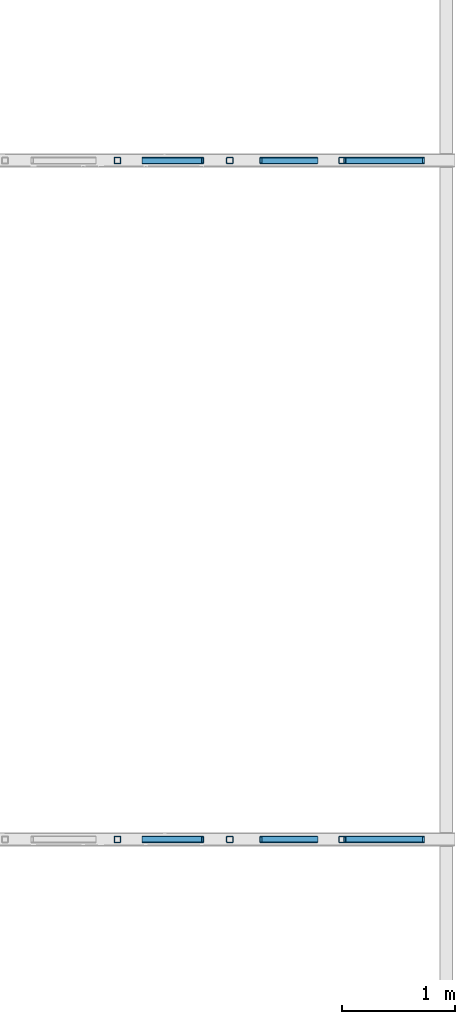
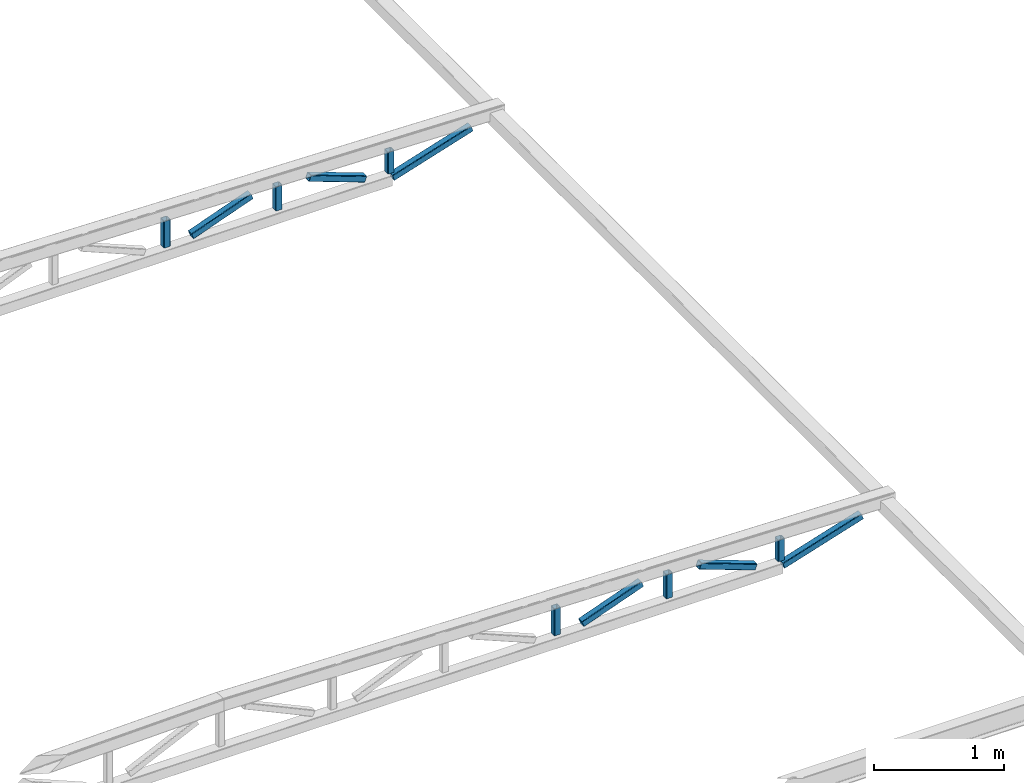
# One storey, part 10 of 12: 12 members, 2 elements without a shape of their own.
"""IFC2X3 building model written with IfcOpenShell, lengths in millimetres."""

from ifc_helpers import new_model, entity, si_unit, converted_unit, derived_unit, direction, frame, frame_2d, origin, place, context, subcontext, project, spatial, polyline, circle_curve, parameter, trimmed, segment, composite_curve, outline, extrude, source, transform, mapped, type_object, type_shapes, element, aggregate, save


model = new_model("IFC2X3")

# Units and contexts
model_context = context("Model", 3, precision=0.01, world=origin(), true_north=direction((6.12303176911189e-17, 1.0)))
body_context = subcontext(model_context, "Body", "Model", "MODEL_VIEW")
ifc_project = project(units=[si_unit("LENGTHUNIT", "METRE", prefix="MILLI"), si_unit("AREAUNIT", "SQUARE_METRE"), si_unit("VOLUMEUNIT", "CUBIC_METRE"), converted_unit("PLANEANGLEUNIT", "DEGREE", entity("IfcRatioMeasure", 0.0174532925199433), si_unit("PLANEANGLEUNIT", "RADIAN"), dimensions=[0, 0, 0, 0, 0, 0, 0]), si_unit("MASSUNIT", "GRAM", prefix="KILO"), derived_unit("MASSDENSITYUNIT", [(si_unit("MASSUNIT", "GRAM", prefix="KILO"), 1), (si_unit("LENGTHUNIT", "METRE"), -3)]), si_unit("TIMEUNIT", "SECOND"), si_unit("FREQUENCYUNIT", "HERTZ"), si_unit("THERMODYNAMICTEMPERATUREUNIT", "DEGREE_CELSIUS"), derived_unit("THERMALTRANSMITTANCEUNIT", [(si_unit("MASSUNIT", "GRAM", prefix="KILO"), 1), (si_unit("THERMODYNAMICTEMPERATUREUNIT", "KELVIN"), -1), (si_unit("TIMEUNIT", "SECOND"), -3)]), derived_unit("VOLUMETRICFLOWRATEUNIT", [(si_unit("LENGTHUNIT", "METRE"), 3), (si_unit("TIMEUNIT", "SECOND"), -1)]), si_unit("ELECTRICCURRENTUNIT", "AMPERE"), si_unit("ELECTRICVOLTAGEUNIT", "VOLT"), si_unit("POWERUNIT", "WATT"), si_unit("FORCEUNIT", "NEWTON", prefix="KILO"), si_unit("ILLUMINANCEUNIT", "LUX"), si_unit("LUMINOUSFLUXUNIT", "LUMEN"), si_unit("LUMINOUSINTENSITYUNIT", "CANDELA"), derived_unit("USERDEFINED", [(si_unit("MASSUNIT", "GRAM", prefix="KILO"), -1), (si_unit("LENGTHUNIT", "METRE"), -2), (si_unit("TIMEUNIT", "SECOND"), 3), (si_unit("LUMINOUSFLUXUNIT", "LUMEN"), 1)]), derived_unit("LINEARVELOCITYUNIT", [(si_unit("LENGTHUNIT", "METRE"), 1), (si_unit("TIMEUNIT", "SECOND"), -1)]), si_unit("PRESSUREUNIT", "PASCAL"), derived_unit("USERDEFINED", [(si_unit("LENGTHUNIT", "METRE"), -2), (si_unit("MASSUNIT", "GRAM", prefix="KILO"), 1), (si_unit("TIMEUNIT", "SECOND"), -2)])], contexts=[model_context])

# Site, building, storey
site_placement = place(None, frame((0.0, 0.0, 101000.0)))
site = spatial("IfcSite", under=ifc_project, at=site_placement, Name="Default", CompositionType="ELEMENT")
building_placement = place(site_placement, origin())
building = spatial("IfcBuilding", under=site, at=building_placement, CompositionType="ELEMENT")
storey_placement = place(building_placement, frame((0.0, 0.0, 6025.0)))
storey = spatial("IfcBuildingStorey", under=building, at=storey_placement, Name="03", CompositionType="ELEMENT", Elevation=6024.9999999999)

# Assembly, member
assembly_1_placement = place(storey_placement, origin())
assembly_1 = element("IfcElementAssembly", 1, at=assembly_1_placement, inside=storey, Name="Gitterdrager:Standard", ObjectType="Gitterdrager:Standard", AssemblyPlace="NOTDEFINED", PredefinedType="TRUSS")
member_type_1 = type_object("IfcMemberType", Name="60x60x5", PredefinedType="BRACE")
shared_shape_1 = source(origin(), body_context, "Body", "SweptSolid", [
    extrude(outline(composite_curve([segment(trimmed(circle_curve(frame_2d((-20.0, -20.0), x_axis=(1.0, 0.0)), 10.0), [parameter(180.0)], [parameter(270.0)], True, "PARAMETER"), True, "CONTINUOUS"), segment(polyline([(-20.0, -30.0), (20.0, -30.0)]), True, "CONTINUOUS"), segment(trimmed(circle_curve(frame_2d((20.0, -20.0), x_axis=(1.0, 0.0)), 10.0), [parameter(270.0)], [parameter(5.08888749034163e-14)], True, "PARAMETER"), True, "CONTINUOUS"), segment(polyline([(30.0, -20.0), (30.0, 20.0)]), True, "CONTINUOUS"), segment(trimmed(circle_curve(frame_2d((20.0, 20.0), x_axis=(1.0, 0.0)), 10.0), [parameter(360.0)], [parameter(89.9999999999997)], True, "PARAMETER"), True, "CONTINUOUS"), segment(polyline([(20.0, 30.0), (-20.0, 30.0)]), True, "CONTINUOUS"), segment(trimmed(circle_curve(frame_2d((-20.0, 20.0), x_axis=(1.0, 0.0)), 10.0), [parameter(90.0000000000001)], [parameter(180.0)], True, "PARAMETER"), True, "CONTINUOUS"), segment(polyline([(-30.0, 20.0), (-30.0, -20.0)]), True, "CONTINUOUS")], self_intersect=False), holes=[composite_curve([segment(polyline([(20.0, -25.0), (-20.0, -25.0)]), True, "CONTINUOUS"), segment(trimmed(circle_curve(frame_2d((-20.0, -20.0), x_axis=(1.0, 0.0)), 5.0), [parameter(180.0)], [parameter(270.0)], True, "PARAMETER"), False, "CONTINUOUS"), segment(polyline([(-25.0, -20.0), (-25.0, 20.0)]), True, "CONTINUOUS"), segment(trimmed(circle_curve(frame_2d((-20.0, 20.0), x_axis=(1.0, 0.0)), 5.0), [parameter(90.0000000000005)], [parameter(180.0)], True, "PARAMETER"), False, "CONTINUOUS"), segment(polyline([(-20.0, 25.0), (20.0, 25.0)]), True, "CONTINUOUS"), segment(trimmed(circle_curve(frame_2d((20.0, 20.0), x_axis=(1.0, 0.0)), 5.0), [parameter(0.0)], [parameter(90.0000000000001)], True, "PARAMETER"), False, "CONTINUOUS"), segment(polyline([(25.0, 20.0), (25.0, -20.0)]), True, "CONTINUOUS"), segment(trimmed(circle_curve(frame_2d((20.0, -20.0), x_axis=(1.0, 0.0)), 5.0), [parameter(270.0)], [parameter(4.57999874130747e-13)], True, "PARAMETER"), False, "CONTINUOUS")], self_intersect=False)]), frame((-130.995453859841, 0.0, 0.0), z_axis=(1.0, 0.0, 0.0), x_axis=(0.0, -1.0, 0.0)), (0.0, 0.0, 1.0), 250.455480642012),
])
type_shapes(member_type_1, [shared_shape_1])
member_1_placement = place(assembly_1_placement, frame((20206.2644969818, 26417.9507529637, -147.328300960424), z_axis=(1.0, 0.0, 0.0), x_axis=(0.0, 0.0, 1.0)))
member_1 = element("IfcMember", 2, at=member_1_placement, type_object=member_type_1, Name="Bjelke HUP:60x60x5", ObjectType="60x60x5", context=body_context, shape_type="MappedRepresentation", body=[
    mapped(shared_shape_1, transform((0.0, 0.0, 0.0), scale=1.0)),
])

assembly_2_placement = place(storey_placement, origin())
assembly_2 = element("IfcElementAssembly", 3, at=assembly_2_placement, inside=storey, Name="Gitterdrager:Standard", ObjectType="Gitterdrager:Standard", AssemblyPlace="NOTDEFINED", PredefinedType="TRUSS")
member_2_placement = place(assembly_2_placement, frame((20206.2644969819, 32417.9507529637, -147.328300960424), z_axis=(1.0, 0.0, 0.0), x_axis=(0.0, 0.0, 1.0)))
member_2 = element("IfcMember", 4, at=member_2_placement, type_object=member_type_1, Name="Bjelke HUP:60x60x5", ObjectType="60x60x5", context=body_context, shape_type="MappedRepresentation", body=[
    mapped(shared_shape_1, transform((0.0, 0.0, 0.0), scale=1.0)),
])

# Member
member_type_2 = type_object("IfcMemberType", Name="60x60x5", PredefinedType="BRACE")
shared_shape_2 = source(origin(), body_context, "Body", "SweptSolid", [
    extrude(outline(composite_curve([segment(trimmed(circle_curve(frame_2d((-20.0, -20.0), x_axis=(1.0, 0.0)), 10.0), [parameter(180.0)], [parameter(270.0)], True, "PARAMETER"), True, "CONTINUOUS"), segment(polyline([(-20.0, -30.0), (20.0, -30.0)]), True, "CONTINUOUS"), segment(trimmed(circle_curve(frame_2d((20.0, -20.0), x_axis=(1.0, 0.0)), 10.0), [parameter(270.0)], [parameter(5.08888749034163e-14)], True, "PARAMETER"), True, "CONTINUOUS"), segment(polyline([(30.0, -20.0), (30.0, 20.0)]), True, "CONTINUOUS"), segment(trimmed(circle_curve(frame_2d((20.0, 20.0), x_axis=(1.0, 0.0)), 10.0), [parameter(360.0)], [parameter(89.9999999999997)], True, "PARAMETER"), True, "CONTINUOUS"), segment(polyline([(20.0, 30.0), (-20.0, 30.0)]), True, "CONTINUOUS"), segment(trimmed(circle_curve(frame_2d((-20.0, 20.0), x_axis=(1.0, 0.0)), 10.0), [parameter(90.0000000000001)], [parameter(180.0)], True, "PARAMETER"), True, "CONTINUOUS"), segment(polyline([(-30.0, 20.0), (-30.0, -20.0)]), True, "CONTINUOUS")], self_intersect=False), holes=[composite_curve([segment(polyline([(20.0, -25.0), (-20.0, -25.0)]), True, "CONTINUOUS"), segment(trimmed(circle_curve(frame_2d((-20.0, -20.0), x_axis=(1.0, 0.0)), 5.0), [parameter(180.0)], [parameter(270.0)], True, "PARAMETER"), False, "CONTINUOUS"), segment(polyline([(-25.0, -20.0), (-25.0, 20.0)]), True, "CONTINUOUS"), segment(trimmed(circle_curve(frame_2d((-20.0, 20.0), x_axis=(1.0, 0.0)), 5.0), [parameter(90.0000000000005)], [parameter(180.0)], True, "PARAMETER"), False, "CONTINUOUS"), segment(polyline([(-20.0, 25.0), (20.0, 25.0)]), True, "CONTINUOUS"), segment(trimmed(circle_curve(frame_2d((20.0, 20.0), x_axis=(1.0, 0.0)), 5.0), [parameter(0.0)], [parameter(90.0000000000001)], True, "PARAMETER"), False, "CONTINUOUS"), segment(polyline([(25.0, 20.0), (25.0, -20.0)]), True, "CONTINUOUS"), segment(trimmed(circle_curve(frame_2d((20.0, -20.0), x_axis=(1.0, 0.0)), 5.0), [parameter(270.0)], [parameter(4.57999874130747e-13)], True, "PARAMETER"), False, "CONTINUOUS")], self_intersect=False)]), frame((-118.596969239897, 0.0, 0.0), z_axis=(1.0, 0.0, 0.0), x_axis=(0.0, -1.0, 0.0)), (0.0, 0.0, 1.0), 225.658511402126),
])
type_shapes(member_type_2, [shared_shape_2])
member_3_placement = place(assembly_1_placement, frame((21199.5978303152, 26417.9507529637, -159.726785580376), z_axis=(1.0, 0.0, 0.0), x_axis=(0.0, 0.0, 1.0)))
member_3 = element("IfcMember", 5, at=member_3_placement, type_object=member_type_2, Name="Bjelke HUP:60x60x5", ObjectType="60x60x5", context=body_context, shape_type="MappedRepresentation", body=[
    mapped(shared_shape_2, transform((0.0, 0.0, 0.0), scale=1.0)),
])

member_4_placement = place(assembly_2_placement, frame((21199.5978303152, 32417.9507529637, -159.726785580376), z_axis=(1.0, 0.0, 0.0), x_axis=(0.0, 0.0, 1.0)))
member_4 = element("IfcMember", 6, at=member_4_placement, type_object=member_type_2, Name="Bjelke HUP:60x60x5", ObjectType="60x60x5", context=body_context, shape_type="MappedRepresentation", body=[
    mapped(shared_shape_2, transform((0.0, 0.0, 0.0), scale=1.0)),
])

member_type_3 = type_object("IfcMemberType", Name="60x60x5", PredefinedType="BRACE")
shared_shape_3 = source(origin(), body_context, "Body", "SweptSolid", [
    extrude(outline(composite_curve([segment(trimmed(circle_curve(frame_2d((-20.0, -20.0), x_axis=(1.0, 0.0)), 10.0), [parameter(180.0)], [parameter(270.0)], True, "PARAMETER"), True, "CONTINUOUS"), segment(polyline([(-20.0, -30.0), (20.0, -30.0)]), True, "CONTINUOUS"), segment(trimmed(circle_curve(frame_2d((20.0, -20.0), x_axis=(1.0, 0.0)), 10.0), [parameter(270.0)], [parameter(5.08888749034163e-14)], True, "PARAMETER"), True, "CONTINUOUS"), segment(polyline([(30.0, -20.0), (30.0, 20.0)]), True, "CONTINUOUS"), segment(trimmed(circle_curve(frame_2d((20.0, 20.0), x_axis=(1.0, 0.0)), 10.0), [parameter(360.0)], [parameter(89.9999999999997)], True, "PARAMETER"), True, "CONTINUOUS"), segment(polyline([(20.0, 30.0), (-20.0, 30.0)]), True, "CONTINUOUS"), segment(trimmed(circle_curve(frame_2d((-20.0, 20.0), x_axis=(1.0, 0.0)), 10.0), [parameter(90.0000000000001)], [parameter(180.0)], True, "PARAMETER"), True, "CONTINUOUS"), segment(polyline([(-30.0, 20.0), (-30.0, -20.0)]), True, "CONTINUOUS")], self_intersect=False), holes=[composite_curve([segment(polyline([(20.0, -25.0), (-20.0, -25.0)]), True, "CONTINUOUS"), segment(trimmed(circle_curve(frame_2d((-20.0, -20.0), x_axis=(1.0, 0.0)), 5.0), [parameter(180.0)], [parameter(270.0)], True, "PARAMETER"), False, "CONTINUOUS"), segment(polyline([(-25.0, -20.0), (-25.0, 20.0)]), True, "CONTINUOUS"), segment(trimmed(circle_curve(frame_2d((-20.0, 20.0), x_axis=(1.0, 0.0)), 5.0), [parameter(90.0000000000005)], [parameter(180.0)], True, "PARAMETER"), False, "CONTINUOUS"), segment(polyline([(-20.0, 25.0), (20.0, 25.0)]), True, "CONTINUOUS"), segment(trimmed(circle_curve(frame_2d((20.0, 20.0), x_axis=(1.0, 0.0)), 5.0), [parameter(0.0)], [parameter(90.0000000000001)], True, "PARAMETER"), False, "CONTINUOUS"), segment(polyline([(25.0, 20.0), (25.0, -20.0)]), True, "CONTINUOUS"), segment(trimmed(circle_curve(frame_2d((20.0, -20.0), x_axis=(1.0, 0.0)), 5.0), [parameter(270.0)], [parameter(4.57999874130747e-13)], True, "PARAMETER"), False, "CONTINUOUS")], self_intersect=False)]), frame((-106.198484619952, 0.0, 0.0), z_axis=(1.0, 0.0, 0.0), x_axis=(0.0, -1.0, 0.0)), (0.0, 0.0, 1.0), 200.861542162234),
])
type_shapes(member_type_3, [shared_shape_3])
member_5_placement = place(assembly_1_placement, frame((22192.9311636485, 26417.9507529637, -172.125270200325), z_axis=(1.0, 0.0, 0.0), x_axis=(0.0, 0.0, 1.0)))
member_5 = element("IfcMember", 7, at=member_5_placement, type_object=member_type_3, Name="Bjelke HUP:60x60x5", ObjectType="60x60x5", context=body_context, shape_type="MappedRepresentation", body=[
    mapped(shared_shape_3, transform((0.0, 0.0, 0.0), scale=1.0)),
])

member_6_placement = place(assembly_2_placement, frame((22192.9311636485, 32417.9507529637, -172.125270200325), z_axis=(1.0, 0.0, 0.0), x_axis=(0.0, 0.0, 1.0)))
member_6 = element("IfcMember", 8, at=member_6_placement, type_object=member_type_3, Name="Bjelke HUP:60x60x5", ObjectType="60x60x5", context=body_context, shape_type="MappedRepresentation", body=[
    mapped(shared_shape_3, transform((0.0, 0.0, 0.0), scale=1.0)),
])

member_type_4 = type_object("IfcMemberType", Name="60x60x5", PredefinedType="BRACE")
shared_shape_4 = source(origin(), body_context, "Body", "SweptSolid", [
    extrude(outline(composite_curve([segment(trimmed(circle_curve(frame_2d((-20.0, -20.0), x_axis=(1.0, 0.0)), 10.0), [parameter(180.0)], [parameter(270.0)], True, "PARAMETER"), True, "CONTINUOUS"), segment(polyline([(-20.0, -30.0), (20.0, -30.0)]), True, "CONTINUOUS"), segment(trimmed(circle_curve(frame_2d((20.0, -20.0), x_axis=(1.0, 0.0)), 10.0), [parameter(270.0)], [parameter(5.08888749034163e-14)], True, "PARAMETER"), True, "CONTINUOUS"), segment(polyline([(30.0, -20.0), (30.0, 20.0)]), True, "CONTINUOUS"), segment(trimmed(circle_curve(frame_2d((20.0, 20.0), x_axis=(1.0, 0.0)), 10.0), [parameter(360.0)], [parameter(89.9999999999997)], True, "PARAMETER"), True, "CONTINUOUS"), segment(polyline([(20.0, 30.0), (-20.0, 30.0)]), True, "CONTINUOUS"), segment(trimmed(circle_curve(frame_2d((-20.0, 20.0), x_axis=(1.0, 0.0)), 10.0), [parameter(90.0000000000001)], [parameter(180.0)], True, "PARAMETER"), True, "CONTINUOUS"), segment(polyline([(-30.0, 20.0), (-30.0, -20.0)]), True, "CONTINUOUS")], self_intersect=False), holes=[composite_curve([segment(polyline([(20.0, -25.0), (-20.0, -25.0)]), True, "CONTINUOUS"), segment(trimmed(circle_curve(frame_2d((-20.0, -20.0), x_axis=(1.0, 0.0)), 5.0), [parameter(180.0)], [parameter(270.0)], True, "PARAMETER"), False, "CONTINUOUS"), segment(polyline([(-25.0, -20.0), (-25.0, 20.0)]), True, "CONTINUOUS"), segment(trimmed(circle_curve(frame_2d((-20.0, 20.0), x_axis=(1.0, 0.0)), 5.0), [parameter(90.0000000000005)], [parameter(180.0)], True, "PARAMETER"), False, "CONTINUOUS"), segment(polyline([(-20.0, 25.0), (20.0, 25.0)]), True, "CONTINUOUS"), segment(trimmed(circle_curve(frame_2d((20.0, 20.0), x_axis=(1.0, 0.0)), 5.0), [parameter(0.0)], [parameter(90.0000000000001)], True, "PARAMETER"), False, "CONTINUOUS"), segment(polyline([(25.0, 20.0), (25.0, -20.0)]), True, "CONTINUOUS"), segment(trimmed(circle_curve(frame_2d((20.0, -20.0), x_axis=(1.0, 0.0)), 5.0), [parameter(270.0)], [parameter(4.57999874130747e-13)], True, "PARAMETER"), False, "CONTINUOUS")], self_intersect=False)]), frame((-288.019442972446, 0.0, 0.0), z_axis=(1.0, 0.0, 0.0), x_axis=(0.0, -1.0, 0.0)), (0.0, 0.0, 1.0), 561.890828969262),
])
type_shapes(member_type_4, [shared_shape_4])
member_7_placement = place(assembly_1_placement, frame((20702.9311636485, 26417.9507529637, -159.726785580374), z_axis=(0.342896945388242, 0.0, -0.939373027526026), x_axis=(0.939373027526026, 0.0, 0.342896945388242)))
member_7 = element("IfcMember", 9, at=member_7_placement, type_object=member_type_4, Name="Bjelke HUP:60x60x5", ObjectType="60x60x5", context=body_context, shape_type="MappedRepresentation", body=[
    mapped(shared_shape_4, transform((0.0, 0.0, 0.0), scale=1.0)),
])

member_8_placement = place(assembly_2_placement, frame((20702.9311636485, 32417.9507529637, -159.726785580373), z_axis=(0.342896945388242, 0.0, -0.939373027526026), x_axis=(0.939373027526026, 0.0, 0.342896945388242)))
member_8 = element("IfcMember", 10, at=member_8_placement, type_object=member_type_4, Name="Bjelke HUP:60x60x5", ObjectType="60x60x5", context=body_context, shape_type="MappedRepresentation", body=[
    mapped(shared_shape_4, transform((0.0, 0.0, 0.0), scale=1.0)),
])

member_type_5 = type_object("IfcMemberType", Name="60x60x5", PredefinedType="BRACE")
shared_shape_5 = source(origin(), body_context, "Body", "SweptSolid", [
    extrude(outline(composite_curve([segment(trimmed(circle_curve(frame_2d((-20.0, -20.0), x_axis=(1.0, 0.0)), 10.0), [parameter(180.0)], [parameter(270.0)], True, "PARAMETER"), True, "CONTINUOUS"), segment(polyline([(-20.0, -30.0), (20.0, -30.0)]), True, "CONTINUOUS"), segment(trimmed(circle_curve(frame_2d((20.0, -20.0), x_axis=(1.0, 0.0)), 10.0), [parameter(270.0)], [parameter(5.08888749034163e-14)], True, "PARAMETER"), True, "CONTINUOUS"), segment(polyline([(30.0, -20.0), (30.0, 20.0)]), True, "CONTINUOUS"), segment(trimmed(circle_curve(frame_2d((20.0, 20.0), x_axis=(1.0, 0.0)), 10.0), [parameter(360.0)], [parameter(89.9999999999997)], True, "PARAMETER"), True, "CONTINUOUS"), segment(polyline([(20.0, 30.0), (-20.0, 30.0)]), True, "CONTINUOUS"), segment(trimmed(circle_curve(frame_2d((-20.0, 20.0), x_axis=(1.0, 0.0)), 10.0), [parameter(90.0000000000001)], [parameter(180.0)], True, "PARAMETER"), True, "CONTINUOUS"), segment(polyline([(-30.0, 20.0), (-30.0, -20.0)]), True, "CONTINUOUS")], self_intersect=False), holes=[composite_curve([segment(polyline([(20.0, -25.0), (-20.0, -25.0)]), True, "CONTINUOUS"), segment(trimmed(circle_curve(frame_2d((-20.0, -20.0), x_axis=(1.0, 0.0)), 5.0), [parameter(180.0)], [parameter(270.0)], True, "PARAMETER"), False, "CONTINUOUS"), segment(polyline([(-25.0, -20.0), (-25.0, 20.0)]), True, "CONTINUOUS"), segment(trimmed(circle_curve(frame_2d((-20.0, 20.0), x_axis=(1.0, 0.0)), 5.0), [parameter(90.0000000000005)], [parameter(180.0)], True, "PARAMETER"), False, "CONTINUOUS"), segment(polyline([(-20.0, 25.0), (20.0, 25.0)]), True, "CONTINUOUS"), segment(trimmed(circle_curve(frame_2d((20.0, 20.0), x_axis=(1.0, 0.0)), 5.0), [parameter(0.0)], [parameter(90.0000000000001)], True, "PARAMETER"), False, "CONTINUOUS"), segment(polyline([(25.0, 20.0), (25.0, -20.0)]), True, "CONTINUOUS"), segment(trimmed(circle_curve(frame_2d((20.0, -20.0), x_axis=(1.0, 0.0)), 5.0), [parameter(270.0)], [parameter(4.57999874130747e-13)], True, "PARAMETER"), False, "CONTINUOUS")], self_intersect=False)]), frame((-236.712172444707, 0.0, 0.0), z_axis=(1.0, 0.0, 0.0), x_axis=(0.0, -1.0, 0.0)), (0.0, 0.0, 1.0), 524.731615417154),
])
type_shapes(member_type_5, [shared_shape_5])
member_9_placement = place(assembly_1_placement, frame((21696.2644969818, 26417.9507529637, -159.726785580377), z_axis=(-0.342896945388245, 0.0, -0.939373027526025), x_axis=(0.939373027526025, 0.0, -0.342896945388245)))
member_9 = element("IfcMember", 11, at=member_9_placement, type_object=member_type_5, Name="Bjelke HUP:60x60x5", ObjectType="60x60x5", context=body_context, shape_type="MappedRepresentation", body=[
    mapped(shared_shape_5, transform((0.0, 0.0, 0.0), scale=1.0)),
])

member_10_placement = place(assembly_2_placement, frame((21696.2644969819, 32417.9507529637, -159.726785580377), z_axis=(-0.342896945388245, 0.0, -0.939373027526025), x_axis=(0.939373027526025, 0.0, -0.342896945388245)))
member_10 = element("IfcMember", 12, at=member_10_placement, type_object=member_type_5, Name="Bjelke HUP:60x60x5", ObjectType="60x60x5", context=body_context, shape_type="MappedRepresentation", body=[
    mapped(shared_shape_5, transform((0.0, 0.0, 0.0), scale=1.0)),
])

member_type_6 = type_object("IfcMemberType", Name="60x60x5", PredefinedType="BRACE")
shared_shape_6 = source(origin(), body_context, "Body", "SweptSolid", [
    extrude(outline(composite_curve([segment(trimmed(circle_curve(frame_2d((-20.0, -20.0), x_axis=(1.0, 0.0)), 10.0), [parameter(180.0)], [parameter(270.0)], True, "PARAMETER"), True, "CONTINUOUS"), segment(polyline([(-20.0, -30.0), (20.0, -30.0)]), True, "CONTINUOUS"), segment(trimmed(circle_curve(frame_2d((20.0, -20.0), x_axis=(1.0, 0.0)), 10.0), [parameter(270.0)], [parameter(5.08888749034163e-14)], True, "PARAMETER"), True, "CONTINUOUS"), segment(polyline([(30.0, -20.0), (30.0, 20.0)]), True, "CONTINUOUS"), segment(trimmed(circle_curve(frame_2d((20.0, 20.0), x_axis=(1.0, 0.0)), 10.0), [parameter(360.0)], [parameter(89.9999999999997)], True, "PARAMETER"), True, "CONTINUOUS"), segment(polyline([(20.0, 30.0), (-20.0, 30.0)]), True, "CONTINUOUS"), segment(trimmed(circle_curve(frame_2d((-20.0, 20.0), x_axis=(1.0, 0.0)), 10.0), [parameter(90.0000000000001)], [parameter(180.0)], True, "PARAMETER"), True, "CONTINUOUS"), segment(polyline([(-30.0, 20.0), (-30.0, -20.0)]), True, "CONTINUOUS")], self_intersect=False), holes=[composite_curve([segment(polyline([(20.0, -25.0), (-20.0, -25.0)]), True, "CONTINUOUS"), segment(trimmed(circle_curve(frame_2d((-20.0, -20.0), x_axis=(1.0, 0.0)), 5.0), [parameter(180.0)], [parameter(270.0)], True, "PARAMETER"), False, "CONTINUOUS"), segment(polyline([(-25.0, -20.0), (-25.0, 20.0)]), True, "CONTINUOUS"), segment(trimmed(circle_curve(frame_2d((-20.0, 20.0), x_axis=(1.0, 0.0)), 5.0), [parameter(90.0000000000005)], [parameter(180.0)], True, "PARAMETER"), False, "CONTINUOUS"), segment(polyline([(-20.0, 25.0), (20.0, 25.0)]), True, "CONTINUOUS"), segment(trimmed(circle_curve(frame_2d((20.0, 20.0), x_axis=(1.0, 0.0)), 5.0), [parameter(0.0)], [parameter(90.0000000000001)], True, "PARAMETER"), False, "CONTINUOUS"), segment(polyline([(25.0, 20.0), (25.0, -20.0)]), True, "CONTINUOUS"), segment(trimmed(circle_curve(frame_2d((20.0, -20.0), x_axis=(1.0, 0.0)), 5.0), [parameter(270.0)], [parameter(4.57999874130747e-13)], True, "PARAMETER"), False, "CONTINUOUS")], self_intersect=False)]), frame((-498.586864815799, 0.0, 0.0), z_axis=(1.0, 0.0, 0.0), x_axis=(0.0, -1.0, 0.0)), (0.0, 0.0, 1.0), 731.687840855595),
])
type_shapes(member_type_6, [shared_shape_6])
member_11_placement = place(assembly_1_placement, frame((22689.5978303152, 26417.9507529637, -184.523754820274), z_axis=(0.300533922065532, 0.0, -0.953771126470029), x_axis=(0.953771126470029, 0.0, 0.300533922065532)))
member_11 = element("IfcMember", 13, at=member_11_placement, type_object=member_type_6, Name="Bjelke HUP:60x60x5", ObjectType="60x60x5", context=body_context, shape_type="MappedRepresentation", body=[
    mapped(shared_shape_6, transform((0.0, 0.0, 0.0), scale=1.0)),
])

aggregate(assembly_1, [member_1, member_3, member_5, member_7, member_9, member_11])

member_12_placement = place(assembly_2_placement, frame((22689.5978303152, 32417.9507529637, -184.523754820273), z_axis=(0.300533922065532, 0.0, -0.953771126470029), x_axis=(0.953771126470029, 0.0, 0.300533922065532)))
member_12 = element("IfcMember", 14, at=member_12_placement, type_object=member_type_6, Name="Bjelke HUP:60x60x5", ObjectType="60x60x5", context=body_context, shape_type="MappedRepresentation", body=[
    mapped(shared_shape_6, transform((0.0, 0.0, 0.0), scale=1.0)),
])

aggregate(assembly_2, [member_2, member_4, member_6, member_8, member_10, member_12])

save(model, "model.ifc")
